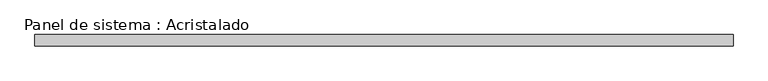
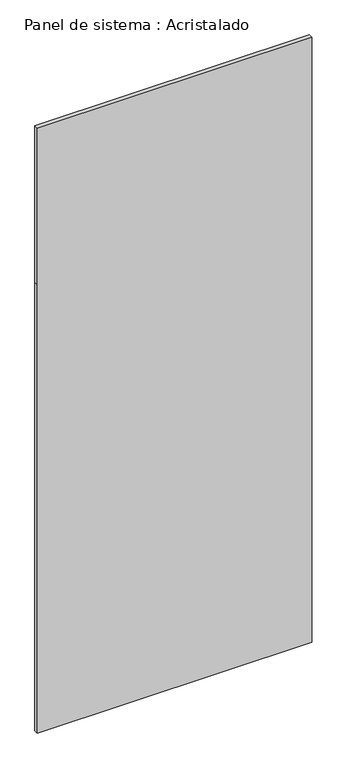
"""IFC4 building model written with IfcOpenShell, lengths in millimetres: plate geometry, Panel de sistema : Acristalado."""

from ifc_helpers import new_model, si_unit, frame, origin, place, context, project, spatial, polyline, outline, extrude, source, transform, mapped, element, save


def panel_de_sistema_acristalado_0da035d6(model_context):
    return source(origin(), model_context, "Body", "SweptSolid", [
        extrude(outline(polyline([(0.0, -622.5), (0.0, 622.5), (2150.0, 622.5), (2900.0, 622.5), (2900.0, -622.5), (2150.0, -622.5), (0.0, -622.5)])), frame((0.0, -10.0, 0.0), z_axis=(0.0, 1.0, 0.0), x_axis=(0.0, 0.0, 1.0)), (0.0, 0.0, 1.0), 20.0),
    ])


if __name__ == "__main__":
    model = new_model("IFC4")
    model_context = context("Model", 3, world=origin())
    ifc_project = project(units=[si_unit("LENGTHUNIT", "METRE", prefix="MILLI")], contexts=[model_context])
    site = spatial("IfcSite", under=ifc_project)
    building = spatial("IfcBuilding", under=site)
    placement = place(None, origin())
    panel_de_sistema_acristalado_shape = panel_de_sistema_acristalado_0da035d6(model_context)
    element("IfcPlate", 1, ObjectType="Panel de sistema : Acristalado", at=placement, inside=building, context=model_context, shape_type="MappedRepresentation", body=[
        mapped(panel_de_sistema_acristalado_shape, transform((0.0, 0.0, 0.0), x_axis=(1.0, 0.0, 0.0), y_axis=(0.0, 1.0, 0.0), z_axis=(0.0, 0.0, 1.0))),
    ])
    save(model, "model.ifc")
